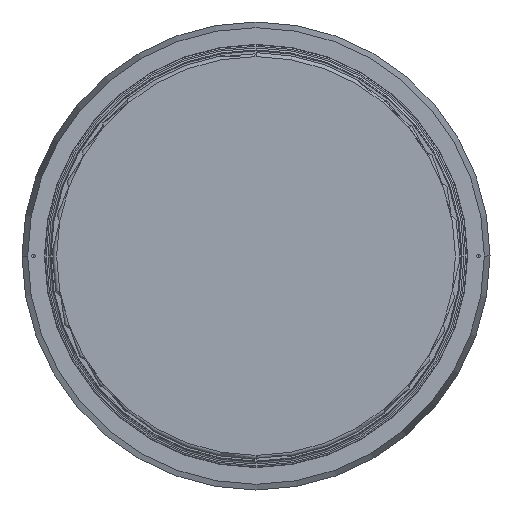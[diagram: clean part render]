
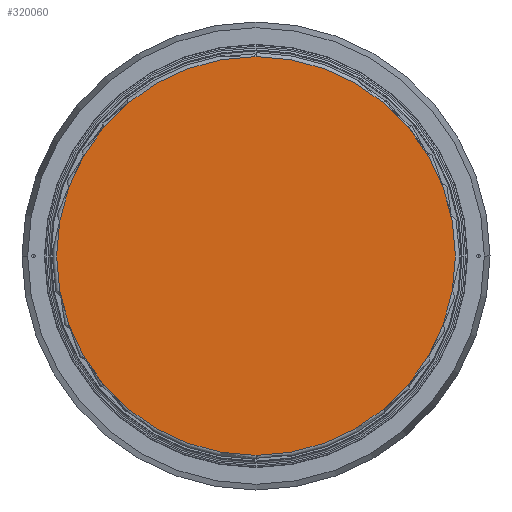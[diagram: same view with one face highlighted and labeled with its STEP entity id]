
A CAD part, front view. The second image highlights one B-rep face of the part: STEP entity #320060.
In plain terms, the highlighted planar face has unit normal (0, -1, 0).
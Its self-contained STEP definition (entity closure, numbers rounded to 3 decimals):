
#10702 = PLANE ( 'NONE',  #323984 ) ;
#65965 = CARTESIAN_POINT ( 'NONE',  ( -524., 0., 500000. ) ) ;
#81050 = EDGE_CURVE ( 'NONE', #97370, #90587, #137236, .T. ) ;
#90587 = VERTEX_POINT ( 'NONE', #566906 ) ;
#97370 = VERTEX_POINT ( 'NONE', #559999 ) ;
#97440 = DIRECTION ( 'NONE',  ( 0., -1., 0. ) ) ;
#118985 = DIRECTION ( 'NONE',  ( -1., 0., 0. ) ) ;
#137236 = CIRCLE ( 'NONE', #560317, 524. ) ;
#218941 = ORIENTED_EDGE ( 'NONE', *, *, #648108, .T. ) ;
#300758 = DIRECTION ( 'NONE',  ( 0., -1., 0. ) ) ;
#320060 = ADVANCED_FACE ( 'NONE', ( #495622 ), #10702, .F. ) ;
#321851 = EDGE_LOOP ( 'NONE', ( #218941, #556151 ) ) ;
#323984 = AXIS2_PLACEMENT_3D ( 'NONE', #65965, #434642, #118985 ) ;
#413070 = CARTESIAN_POINT ( 'NONE',  ( 0., 0., 0. ) ) ;
#424245 = AXIS2_PLACEMENT_3D ( 'NONE', #616238, #300758, #669236 ) ;
#429189 = CIRCLE ( 'NONE', #424245, 524. ) ;
#434642 = DIRECTION ( 'NONE',  ( 0., 1., 0. ) ) ;
#466087 = DIRECTION ( 'NONE',  ( 0., 0., 1. ) ) ;
#495622 = FACE_OUTER_BOUND ( 'NONE', #321851, .T. ) ;
#556151 = ORIENTED_EDGE ( 'NONE', *, *, #81050, .T. ) ;
#559999 = CARTESIAN_POINT ( 'NONE',  ( 0., 0., -524. ) ) ;
#560317 = AXIS2_PLACEMENT_3D ( 'NONE', #413070, #97440, #466087 ) ;
#566906 = CARTESIAN_POINT ( 'NONE',  ( 0., 0., 524. ) ) ;
#616238 = CARTESIAN_POINT ( 'NONE',  ( 0., 0., 0. ) ) ;
#648108 = EDGE_CURVE ( 'NONE', #90587, #97370, #429189, .T. ) ;
#669236 = DIRECTION ( 'NONE',  ( 0., 0., 1. ) ) ;
